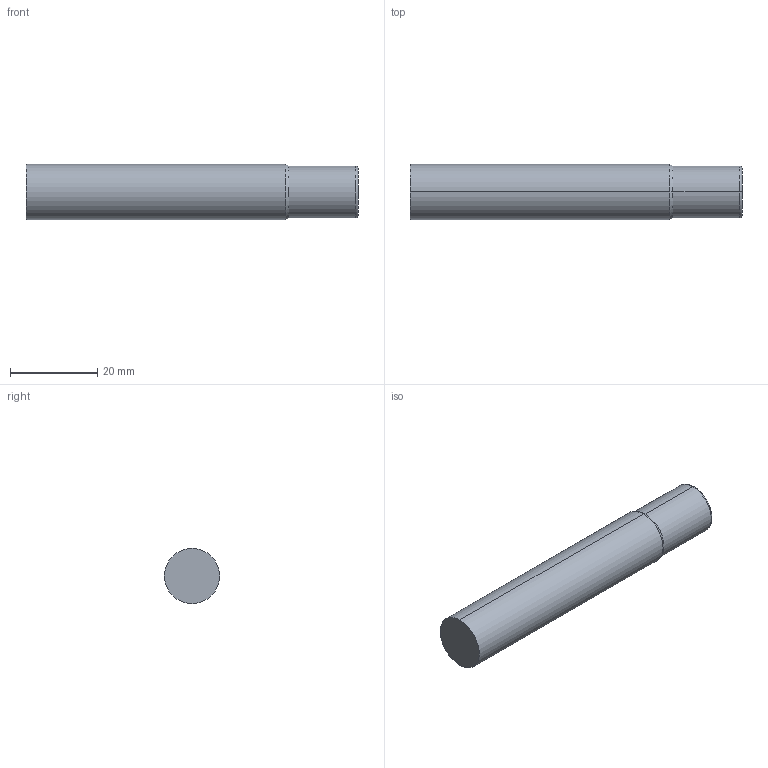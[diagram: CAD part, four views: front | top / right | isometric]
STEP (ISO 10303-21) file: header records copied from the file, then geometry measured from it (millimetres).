
FILE_DESCRIPTION (( 'STEP AP214' ), '1' );
FILE_NAME ('SSIST50469-020.STEP', '2025-05-28T20:11:17', ( '' ), ( '' ), 'SwSTEP 2.0', 'SolidWorks 2023', '' );
FILE_SCHEMA (( 'AUTOMOTIVE_DESIGN' ));
Length unit declared in the file: inch
Products named in the file (3): SSI5 Imperial LOC ONLY_SSIST50469-020; SSI5 Imperial SHANK ONLY_SSIST50469-020; SSIST50469-020
Assembly tree (2 placements, depth 2):
  SSIST50469-020
    SSI5 Imperial LOC ONLY_SSIST50469-020
    SSI5 Imperial SHANK ONLY_SSIST50469-020
Bounding box: 76.2 x 12.7 x 12.7 mm (x, y, z)
Volume: 9403.9 mm3; surface area: 3457 mm2
Topology: 2 solids, 2 shells, 12 faces, 20 edges, 12 vertices
Faces by surface type: cylinder 4, plane 4, torus 2, cone 2
Entity records: 462 total; most frequent: DIRECTION 68, CARTESIAN_POINT 49, ORIENTED_EDGE 40, AXIS2_PLACEMENT_3D 31, EDGE_CURVE 20, CIRCLE 14, EDGE_LOOP 12, ADVANCED_FACE 12
